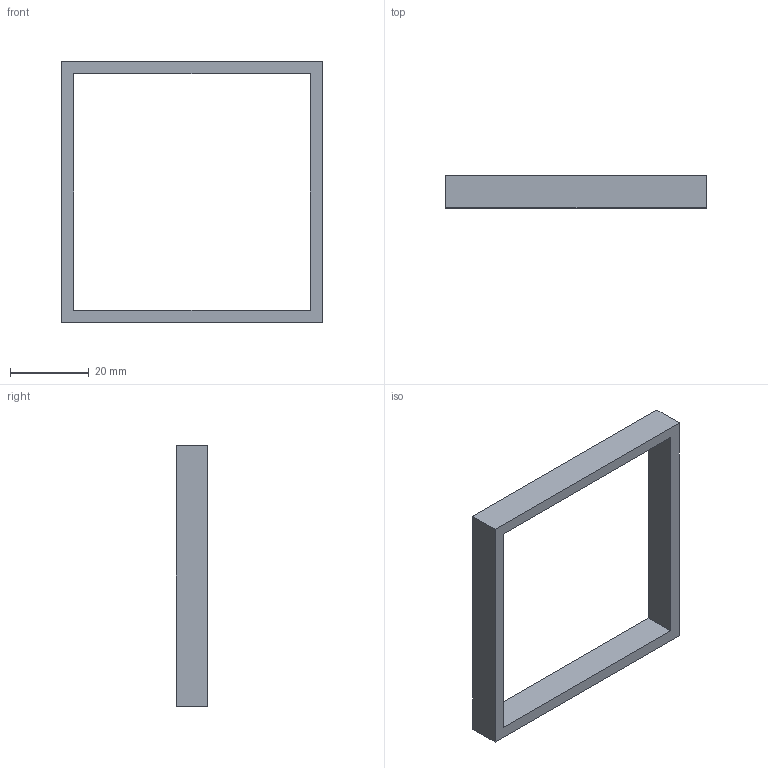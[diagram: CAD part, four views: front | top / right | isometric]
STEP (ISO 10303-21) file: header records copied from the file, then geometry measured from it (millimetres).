
FILE_DESCRIPTION(('Open CASCADE Model'),'2;1');
FILE_NAME('Open CASCADE Shape Model','2026-10-16T18:52:00',('Author'),( 'Open CASCADE'),'Open CASCADE STEP processor 7.8','Open CASCADE 7.8' ,'Unknown');
FILE_SCHEMA(('AUTOMOTIVE_DESIGN { 1 0 10303 214 1 1 1 1 }'));
Length unit declared in the file: millimetre
Products named in the file (1): Open CASCADE STEP translator 7.8 56
Bounding box: 66 x 8 x 66 mm (x, y, z)
Volume: 6048 mm3; surface area: 5544 mm2
Topology: 1 solids, 1 shells, 10 faces, 24 edges, 16 vertices
Faces by surface type: plane 10
Entity records: 598 total; most frequent: CARTESIAN_POINT 115, DIRECTION 78, LINE 56, VECTOR 56, ORIENTED_EDGE 48, PCURVE 48, DEFINITIONAL_REPRESENTATION 48, EDGE_CURVE 24
